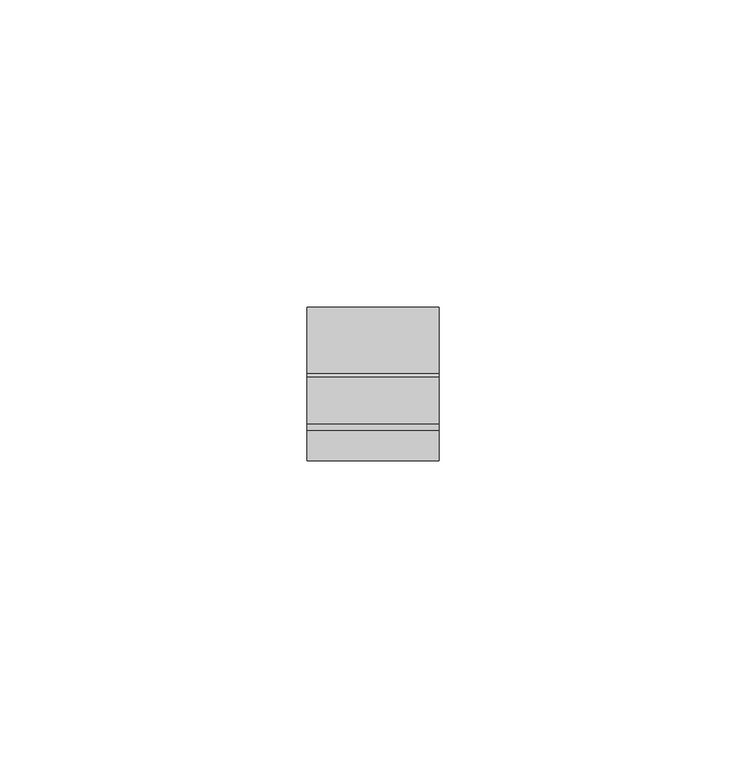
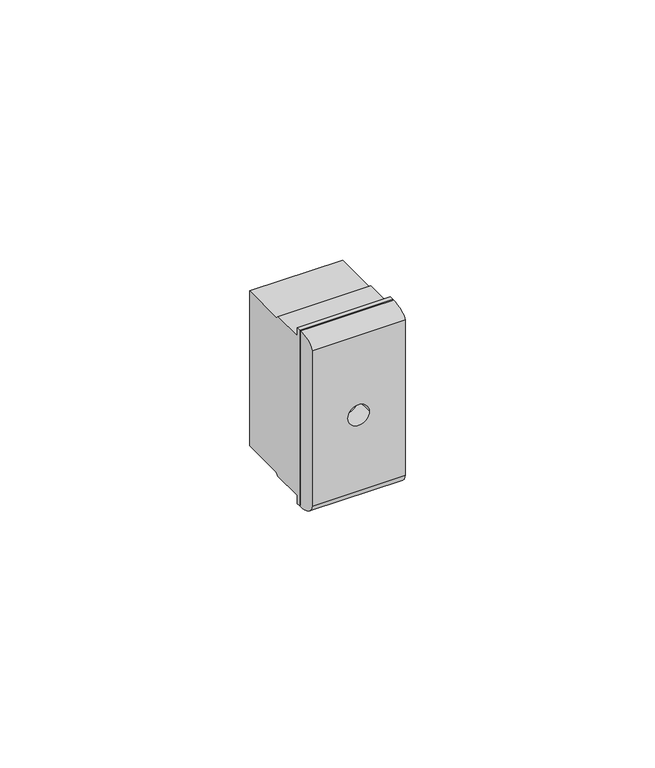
"""IFC4 building model written with IfcOpenShell, lengths in millimetres: proxy geometry, КНС_TVРозетка_DKC : Белый."""

from ifc_helpers import new_model, si_unit, point, frame, origin, place, context, project, spatial, polyline, circle_curve, ellipse_curve, trimmed, outline, extrude, source, transform, mapped, element, save
from ifc_brep_helpers import plane_surface, revolved_surface, extruded_surface, advanced_brep


def electrical_fixtures_7d6bc673(model_context):
    return source(origin(), model_context, "Body", "SolidModel", [
        extrude(outline(polyline([(-19.0331367, 21.5), (-19.0331367, 19.5), (-11.287857, 19.5), (-10.7214929, 18.9336359), (0.0, 18.9336359), (0.0, -18.9336359), (-10.7214929, -18.9336359), (-11.287857, -19.5), (-19.0331367, -19.5), (-19.0331367, -21.5), (-20.0, -21.5), (-20.0, 21.5), (-19.0331367, 21.5)])), frame((-10.75, 0.0, 0.0), z_axis=(1.0, 0.0, 0.0), x_axis=(0.0, 1.0, 0.0)), (0.0, 0.0, 1.0), 21.5),
        advanced_brep(
        [(10.75, -20.0, -21.5), (10.75, -20.0, 21.5), (10.75, -25.0, 19.5), (10.75, -25.0, -18.5), (-10.75, -20.0, -21.5), (-10.75, -25.0, -18.5), (-10.75, -25.0, 19.5), (-10.75, -20.0, 21.5), (-2.4928957, -20.0, 0.0), (2.4928957, -20.0, 0.0), (2.4928957, -25.0, 0.0), (-2.4928957, -25.0, 0.0)],
        [
            (0, 1),
            (1, 2, ellipse_curve(frame((10.75, -20.0, 19.5), z_axis=(1.0, 0.0, 0.0), x_axis=(0.0, 1.0, 0.0)), 5.0, 2.0)),
            (2, 3),
            (3, 0, ellipse_curve(frame((10.75, -20.0, -18.5), z_axis=(1.0, 0.0, 0.0), x_axis=(0.0, 1.0, 0.0)), 5.0, 3.0)),
            (4, 5, ellipse_curve(frame((-10.75, -20.0, -18.5), z_axis=(-1.0, 0.0, 0.0), x_axis=(0.0, 1.0, 0.0)), 5.0, 3.0)),
            (5, 6),
            (6, 7, ellipse_curve(frame((-10.75, -20.0, 19.5), z_axis=(-1.0, 0.0, 0.0), x_axis=(0.0, 1.0, 0.0)), 5.0, 2.0)),
            (7, 4),
            (0, 4),
            (7, 1),
            (8, 9, circle_curve(frame((0.0, -20.0, 0.0), z_axis=(0.0, -1.0, 0.0), x_axis=(1.0, 0.0, 0.0)), 2.4928957)),
            (9, 8, circle_curve(frame((0.0, -20.0, 0.0), z_axis=(0.0, -1.0, 0.0), x_axis=(1.0, 0.0, 0.0)), 2.4928957)),
            (6, 2),
            (5, 3),
            (10, 11, circle_curve(frame((0.0, -25.0, 0.0), z_axis=(0.0, 1.0, 0.0), x_axis=(1.0, 0.0, 0.0)), 2.4928957)),
            (11, 10, circle_curve(frame((0.0, -25.0, 0.0), z_axis=(0.0, 1.0, 0.0), x_axis=(1.0, 0.0, 0.0)), 2.4928957)),
            (8, 11),
            (10, 9),
        ],
        [
            plane_surface(frame((10.75, -20.0, 21.5), z_axis=(1.0, 0.0, 0.0), x_axis=(0.0, 0.0, 1.0))),
            plane_surface(frame((-10.75, -20.0, 21.5), z_axis=(-1.0, 0.0, 0.0), x_axis=(0.0, 0.0, -1.0))),
            plane_surface(frame((10.75, -20.0, -21.5), z_axis=(0.0, 1.0, 0.0), x_axis=(-1.0, 0.0, 0.0))),
            extruded_surface(trimmed(ellipse_curve(frame((-32.25, -20.0, 19.5), z_axis=(1.0, 0.0, 0.0), x_axis=(0.0, 1.0, 0.0)), 5.0, 2.0), [point((-32.25, -20.0, 21.5))], [point((-32.25, -25.0, 19.5))], True, "CARTESIAN"), (21.5, 0.0, 0.0), 21.5),
            plane_surface(frame((10.75, -25.0, 19.5), z_axis=(0.0, -1.0, 0.0), x_axis=(-1.0, 0.0, 0.0))),
            extruded_surface(trimmed(ellipse_curve(frame((-32.25, -20.0, -18.5), z_axis=(1.0, 0.0, 0.0), x_axis=(0.0, 1.0, 0.0)), 5.0, 3.0), [point((-32.25, -25.0, -18.5))], [point((-32.25, -20.0, -21.5))], True, "CARTESIAN"), (21.5, 0.0, 0.0), 21.5),
            revolved_surface(polyline([(2.4928957, -25.0, 0.0), (2.4928957, -20.0, 0.0)]), (0.0, -20.0, 0.0), (0.0, -1.0, 0.0)),
        ],
        [
            (0, [[1, 2, 3, 4]]),
            (1, [[5, 6, 7, 8]]),
            (2, [[-1, 9, -8, 10], [11, 12]]),
            (3, [[-2, -10, -7, 13]]),
            (4, [[-3, -13, -6, 14], [15, 16]]),
            (5, [[-4, -14, -5, -9]]),
            (6, [[17, -15, 18, -11]]),
            (6, [[-17, -12, -18, -16]]),
        ],
    ),
    ])


if __name__ == "__main__":
    model = new_model("IFC4")
    model_context = context("Model", 3, world=origin())
    ifc_project = project(units=[si_unit("LENGTHUNIT", "METRE", prefix="MILLI")], contexts=[model_context])
    site = spatial("IfcSite", under=ifc_project)
    building = spatial("IfcBuilding", under=site)
    placement = place(None, origin())
    electrical_fixtures_shape = electrical_fixtures_7d6bc673(model_context)
    element("IfcBuildingElementProxy", 1, Name="КНС_TVРозетка_DKC : Белый", ObjectType="КНС_TVРозетка_DKC : Белый", at=placement, inside=building, context=model_context, shape_type="MappedRepresentation", body=[
        mapped(electrical_fixtures_shape, transform((0.0, 0.0, 0.0), x_axis=(1.0, 0.0, 0.0), y_axis=(0.0, 1.0, 0.0), z_axis=(0.0, 0.0, 1.0))),
    ])
    save(model, "model.ifc")
